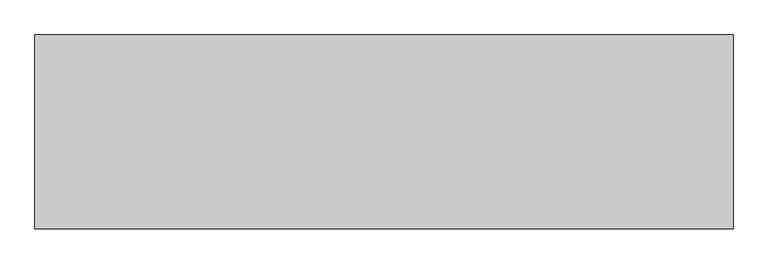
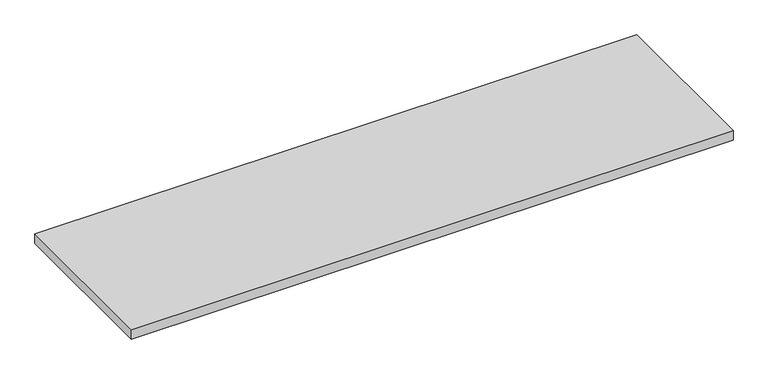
"""IFC4 building model written with IfcOpenShell, lengths in millimetres: proxy geometry, BIMHealth-500mm_deep_shelving-LOD2A-v1 : BIMHealth-500mm_deep_shelving-LOD2A-v1."""

from ifc_helpers import new_model, si_unit, frame, origin, place, context, project, spatial, polyline, outline, extrude, source, transform, mapped, element, save


def generic_models_75f95361(model_context):
    return source(origin(), model_context, "Body", "SweptSolid", [
        extrude(outline(polyline([(1800.0, 0.0), (1800.0, -500.0), (0.0, -500.0), (0.0, 0.0), (1800.0, 0.0)])), frame((0.0, 0.0, 300.0), z_axis=(0.0, 0.0, 1.0), x_axis=(1.0, 0.0, 0.0)), (0.0, 0.0, 1.0), 30.0),
    ])


if __name__ == "__main__":
    model = new_model("IFC4")
    model_context = context("Model", 3, world=origin())
    ifc_project = project(units=[si_unit("LENGTHUNIT", "METRE", prefix="MILLI")], contexts=[model_context])
    site = spatial("IfcSite", under=ifc_project)
    building = spatial("IfcBuilding", under=site)
    placement = place(None, origin())
    generic_models_shape = generic_models_75f95361(model_context)
    element("IfcBuildingElementProxy", 1, Name="BIMHealth-500mm_deep_shelving-LOD2A-v1 : BIMHealth-500mm_deep_shelving-LOD2A-v1", ObjectType="BIMHealth-500mm_deep_shelving-LOD2A-v1 : BIMHealth-500mm_deep_shelving-LOD2A-v1", at=placement, inside=building, context=model_context, shape_type="MappedRepresentation", body=[
        mapped(generic_models_shape, transform((0.0, 0.0, 0.0), x_axis=(1.0, 0.0, 0.0), y_axis=(0.0, 1.0, 0.0), z_axis=(0.0, 0.0, 1.0))),
    ])
    save(model, "model.ifc")
